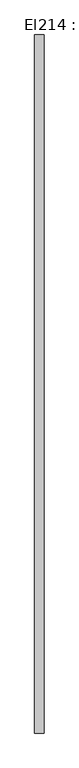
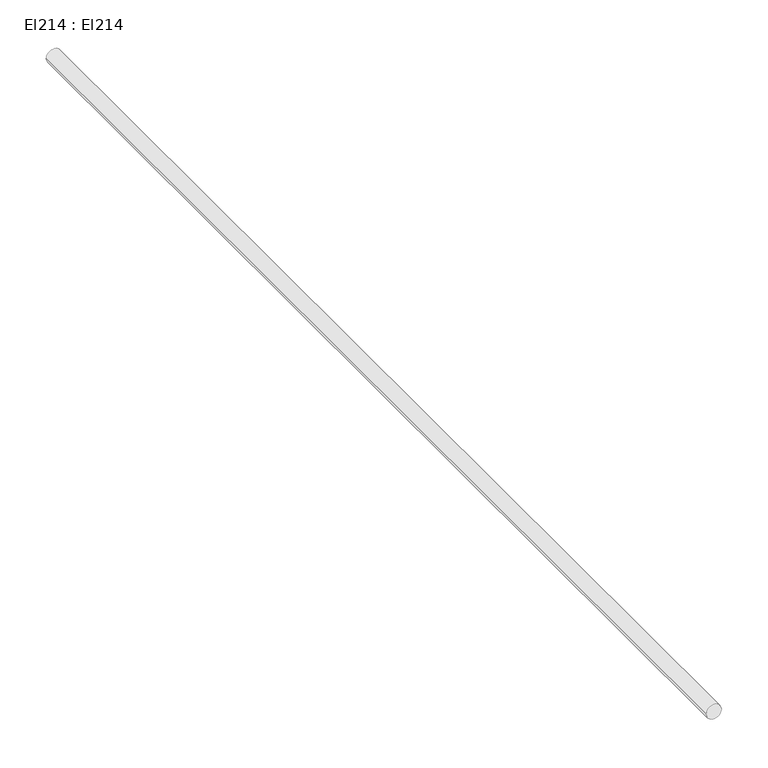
"""IFC4 building model written with IfcOpenShell, lengths in millimetres: cable carrier segment geometry, El214 : El214."""

from ifc_helpers import new_model, si_unit, point, frame, frame_2d, origin, place, context, project, spatial, circle_curve, trimmed, segment, composite_curve, outline, extrude, source, transform, mapped, element, save


def el214_el214_1e4d365e(model_context):
    return source(origin(), model_context, "Body", "SweptSolid", [
        extrude(outline(composite_curve([segment(trimmed(circle_curve(frame_2d((2950.0, 5245.38)), 9.5), [point((2950.0, 5235.88))], [point((2950.0, 5254.88))], False, "CARTESIAN"), True, "CONTINUOUS"), segment(trimmed(circle_curve(frame_2d((2950.0, 5245.38)), 9.5), [point((2950.0, 5254.88))], [point((2950.0, 5235.88))], False, "CARTESIAN"), True, "CONTINUOUS")], self_intersect=False)), frame((0.0, 25346.337, 0.0), z_axis=(0.0, 1.0, 0.0), x_axis=(0.0, 0.0, 1.0)), (0.0, 0.0, 1.0), 1423.33),
    ])


if __name__ == "__main__":
    model = new_model("IFC4")
    model_context = context("Model", 3, world=origin())
    ifc_project = project(units=[si_unit("LENGTHUNIT", "METRE", prefix="MILLI")], contexts=[model_context])
    site = spatial("IfcSite", under=ifc_project)
    building = spatial("IfcBuilding", under=site)
    placement = place(None, origin())
    el214_el214_shape = el214_el214_1e4d365e(model_context)
    element("IfcCableCarrierSegment", 1, ObjectType="El214 : El214", at=placement, inside=building, context=model_context, shape_type="MappedRepresentation", body=[
        mapped(el214_el214_shape, transform((0.0, 0.0, 0.0), x_axis=(1.0, 0.0, 0.0), y_axis=(0.0, 1.0, 0.0), z_axis=(0.0, 0.0, 1.0))),
    ])
    save(model, "model.ifc")
